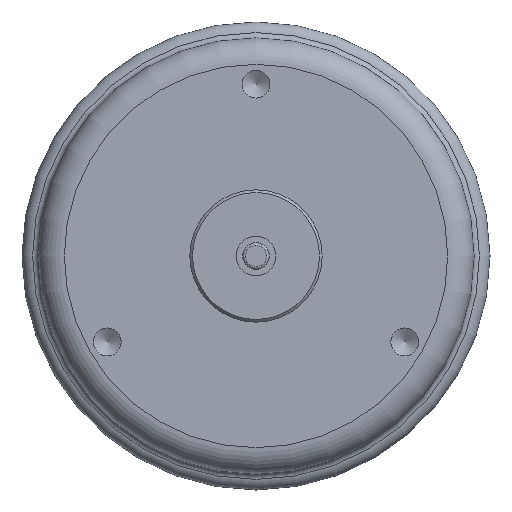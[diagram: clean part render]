
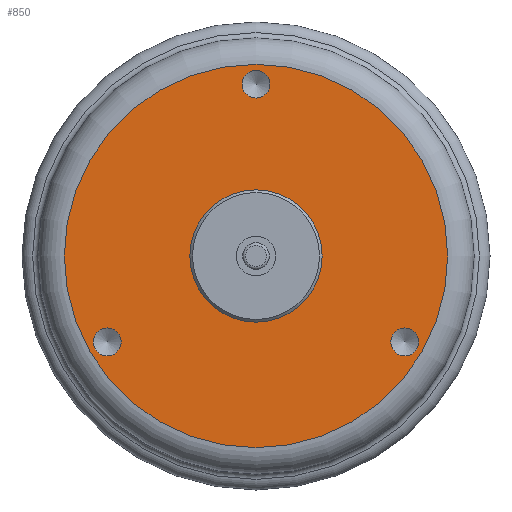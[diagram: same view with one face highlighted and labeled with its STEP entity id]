
A CAD part, front view. The second image highlights one B-rep face of the part: STEP entity #850.
In plain terms, the highlighted planar face has unit normal (0, -1, 0).
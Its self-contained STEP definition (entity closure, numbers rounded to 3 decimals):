
#40=FACE_BOUND('',#183,.T.);
#41=FACE_BOUND('',#184,.T.);
#42=FACE_BOUND('',#185,.T.);
#43=FACE_BOUND('',#186,.T.);
#64=PLANE('',#987);
#115=FACE_OUTER_BOUND('',#182,.T.);
#182=EDGE_LOOP('',(#726));
#183=EDGE_LOOP('',(#727));
#184=EDGE_LOOP('',(#728));
#185=EDGE_LOOP('',(#729));
#186=EDGE_LOOP('',(#730));
#322=CIRCLE('',#953,1.057);
#324=CIRCLE('',#957,1.057);
#326=CIRCLE('',#961,1.057);
#342=CIRCLE('',#985,14.5);
#344=CIRCLE('',#988,5.);
#397=VERTEX_POINT('',#1438);
#400=VERTEX_POINT('',#1447);
#403=VERTEX_POINT('',#1456);
#416=VERTEX_POINT('',#1497);
#417=VERTEX_POINT('',#1501);
#493=EDGE_CURVE('',#397,#397,#322,.T.);
#497=EDGE_CURVE('',#400,#400,#324,.T.);
#501=EDGE_CURVE('',#403,#403,#326,.T.);
#521=EDGE_CURVE('',#416,#416,#342,.T.);
#523=EDGE_CURVE('',#417,#417,#344,.T.);
#726=ORIENTED_EDGE('',*,*,#521,.F.);
#727=ORIENTED_EDGE('',*,*,#493,.T.);
#728=ORIENTED_EDGE('',*,*,#497,.T.);
#729=ORIENTED_EDGE('',*,*,#501,.T.);
#730=ORIENTED_EDGE('',*,*,#523,.T.);
#850=ADVANCED_FACE('',(#115,#40,#41,#42,#43),#64,.T.);
#953=AXIS2_PLACEMENT_3D('',#1439,#1180,#1181);
#957=AXIS2_PLACEMENT_3D('',#1448,#1190,#1191);
#961=AXIS2_PLACEMENT_3D('',#1457,#1200,#1201);
#985=AXIS2_PLACEMENT_3D('',#1498,#1252,#1253);
#987=AXIS2_PLACEMENT_3D('',#1500,#1256,#1257);
#988=AXIS2_PLACEMENT_3D('',#1502,#1258,#1259);
#1180=DIRECTION('center_axis',(0.,1.,0.));
#1181=DIRECTION('ref_axis',(-0.5,0.,0.866));
#1190=DIRECTION('center_axis',(0.,1.,0.));
#1191=DIRECTION('ref_axis',(-0.5,0.,-0.866));
#1200=DIRECTION('center_axis',(0.,1.,0.));
#1201=DIRECTION('ref_axis',(1.,0.,0.));
#1252=DIRECTION('center_axis',(0.,1.,0.));
#1253=DIRECTION('ref_axis',(-1.,0.,0.));
#1256=DIRECTION('center_axis',(0.,-1.,0.));
#1257=DIRECTION('ref_axis',(0.,0.,-1.));
#1258=DIRECTION('center_axis',(0.,1.,0.));
#1259=DIRECTION('ref_axis',(-1.,0.,0.));
#1438=CARTESIAN_POINT('',(-10.73,0.,-7.415));
#1439=CARTESIAN_POINT('Origin',(-11.258,0.,-6.5));
#1447=CARTESIAN_POINT('',(11.787,0.,-5.585));
#1448=CARTESIAN_POINT('Origin',(11.258,0.,-6.5));
#1456=CARTESIAN_POINT('',(-1.057,0.,13.));
#1457=CARTESIAN_POINT('Origin',(0.,0.,13.));
#1497=CARTESIAN_POINT('',(0.,0.,14.5));
#1498=CARTESIAN_POINT('Origin',(0.,0.,0.));
#1500=CARTESIAN_POINT('Origin',(0.,0.,0.));
#1501=CARTESIAN_POINT('',(5.,0.,0.));
#1502=CARTESIAN_POINT('Origin',(0.,0.,0.));
